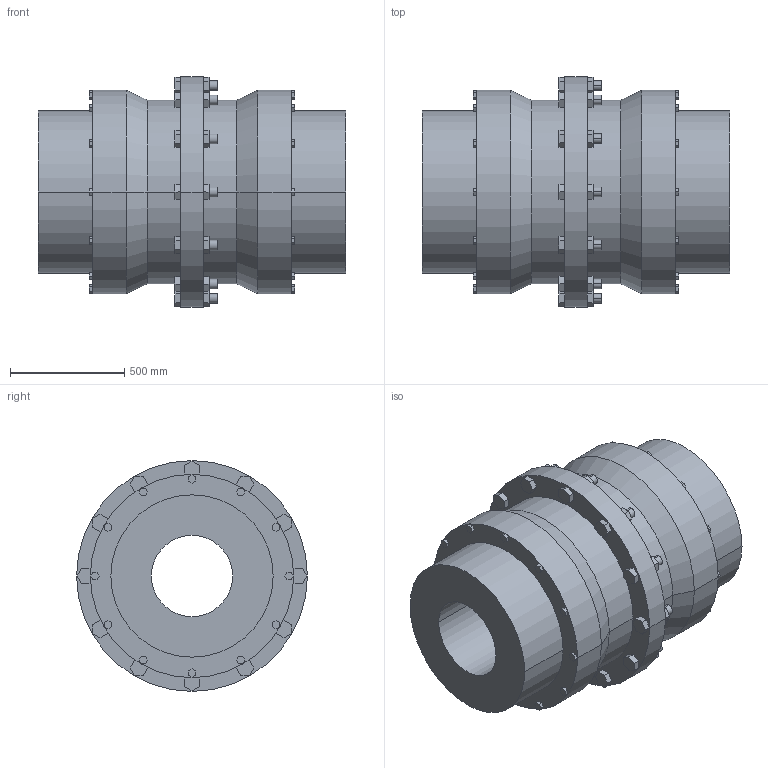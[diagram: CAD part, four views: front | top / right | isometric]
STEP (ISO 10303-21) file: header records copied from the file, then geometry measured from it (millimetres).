
FILE_DESCRIPTION((''),'2;1');
FILE_NAME('A19717000-0_ASM','2019-05-23T',('AB_Roschiwal'),('RENK AG'),'PRO/ENGINEER BY PARAMETRIC TECHNOLOGY CORPORATION, 2015440','PRO/ENGINEER BY PARAMETRIC TECHNOLOGY CORPORATION, 2015440','');
FILE_SCHEMA(('CONFIG_CONTROL_DESIGN'));
Length unit declared in the file: millimetre
Products named in the file (3): SBK425_GEHAEUSE; SBK425_NABE; A19717000-0_ASM
Assembly tree (3 placements, depth 2):
  A19717000-0_ASM
    SBK425_GEHAEUSE
    SBK425_NABE  x2
Bounding box: 1345 x 1010 x 1010 mm (x, y, z)
Volume: 436886272.1 mm3; surface area: 10037739.7 mm2
Topology: 3 solids, 3 shells, 422 faces, 1036 edges, 688 vertices
Faces by surface type: plane 362, cylinder 56, cone 4
Entity records: 12052 total; most frequent: CARTESIAN_POINT 2100, ORIENTED_EDGE 2024, DIRECTION 1940, EDGE_CURVE 1012, VECTOR 916, LINE 916, VERTEX_POINT 672, AXIS2_PLACEMENT_3D 512
